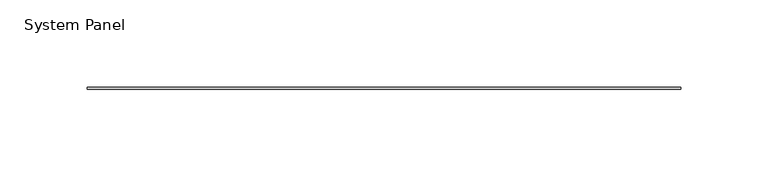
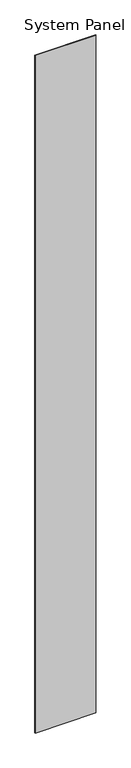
"""IFC4 building model written with IfcOpenShell, lengths in millimetres: plate geometry, System Panel : Stratco_Hiland_Tray."""

from ifc_helpers import new_model, si_unit, origin, origin_with_axes, place, context, project, spatial, polyline, outline, extrude, source, transform, mapped, element, save


def system_panel_13f24f5d(model_context):
    return source(origin(), model_context, "Body", "SweptSolid", [
        extrude(outline(polyline([(170.0000002, 2.5), (-170.0000002, 2.5), (-170.0000002, 3.5), (170.0000002, 3.5), (170.0000002, 2.5)])), origin_with_axes(), (0.0, 0.0, 1.0), 4000.0),
    ])


if __name__ == "__main__":
    model = new_model("IFC4")
    model_context = context("Model", 3, world=origin())
    ifc_project = project(units=[si_unit("LENGTHUNIT", "METRE", prefix="MILLI")], contexts=[model_context])
    site = spatial("IfcSite", under=ifc_project)
    building = spatial("IfcBuilding", under=site)
    placement = place(None, origin())
    system_panel_shape = system_panel_13f24f5d(model_context)
    element("IfcPlate", 1, ObjectType="System Panel : Stratco_Hiland_Tray", at=placement, inside=building, context=model_context, shape_type="MappedRepresentation", body=[
        mapped(system_panel_shape, transform((0.0, 0.0, 0.0), x_axis=(1.0, 0.0, 0.0), y_axis=(0.0, 1.0, 0.0), z_axis=(0.0, 0.0, 1.0))),
    ])
    save(model, "model.ifc")
